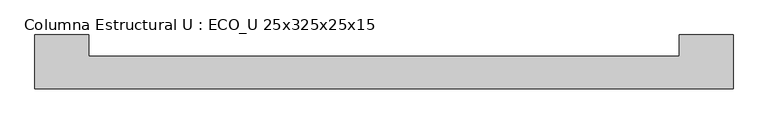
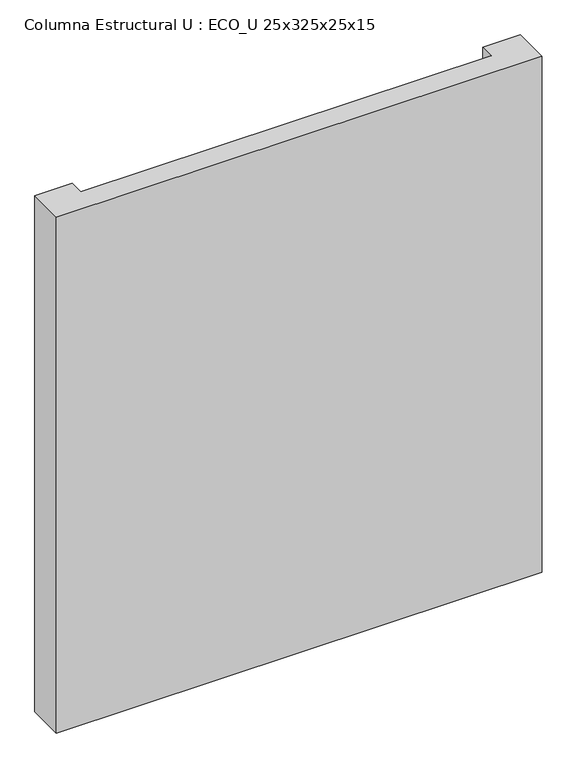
"""IFC4 building model written with IfcOpenShell, lengths in millimetres: column geometry, Columna Estructural U : ECO_U 25x325x25x15."""

from ifc_helpers import new_model, si_unit, frame, origin, place, context, project, spatial, polyline, outline, extrude, source, transform, mapped, element, save


def columna_estructural_u_eco_u_25x325x25x15_ef9e1a40(model_context):
    return source(origin(), model_context, "Body", "SweptSolid", [
        extrude(outline(polyline([(1375.0, 75.0), (1375.0, 175.0), (1625.0, 175.0), (1625.0, -75.0), (-1625.0, -75.0), (-1625.0, 175.0), (-1375.0, 175.0), (-1375.0, 75.0), (1375.0, 75.0)])), frame((0.0, 0.0, -900.0), z_axis=(0.0, 0.0, 1.0), x_axis=(1.0, 0.0, 0.0)), (0.0, 0.0, 1.0), 3650.0),
    ])


if __name__ == "__main__":
    model = new_model("IFC4")
    model_context = context("Model", 3, world=origin())
    ifc_project = project(units=[si_unit("LENGTHUNIT", "METRE", prefix="MILLI")], contexts=[model_context])
    site = spatial("IfcSite", under=ifc_project)
    building = spatial("IfcBuilding", under=site)
    placement = place(None, origin())
    columna_estructural_u_eco_u_25x325x25x15_shape = columna_estructural_u_eco_u_25x325x25x15_ef9e1a40(model_context)
    element("IfcColumn", 1, ObjectType="Columna Estructural U : ECO_U 25x325x25x15", at=placement, inside=building, context=model_context, shape_type="MappedRepresentation", body=[
        mapped(columna_estructural_u_eco_u_25x325x25x15_shape, transform((0.0, 0.0, 0.0), x_axis=(1.0, 0.0, 0.0), y_axis=(0.0, 1.0, 0.0), z_axis=(0.0, 0.0, 1.0))),
    ])
    save(model, "model.ifc")
